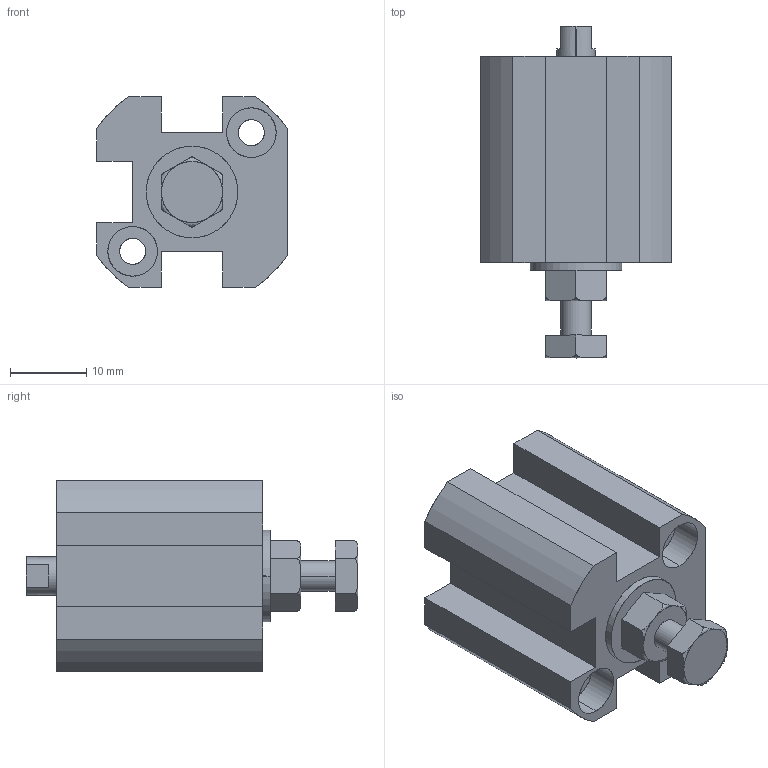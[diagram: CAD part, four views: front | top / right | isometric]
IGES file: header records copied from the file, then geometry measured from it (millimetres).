
Start section: SolidWorks IGES file using analytic representation for surfaces
Global section: file name: C:\Users\Toshiba\Desktop\XCA2-10-10.IGS; native system: SolidWorks 2014; preprocessor: SolidWorks 2014; author: Toshiba; date: 160524.102852; units: millimetre
Bounding box: 25 x 43.5 x 25 mm (x, y, z)
Surface area: 6035.5 mm2 (no closed solid volume)
Topology: 0 solids, 0 shells, 109 faces, 1823 edges, 1819 vertices
Faces by surface type: bspline 62, revolution 47
